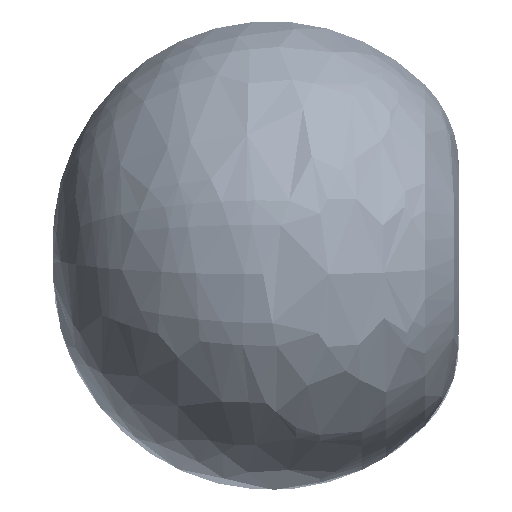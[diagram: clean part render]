
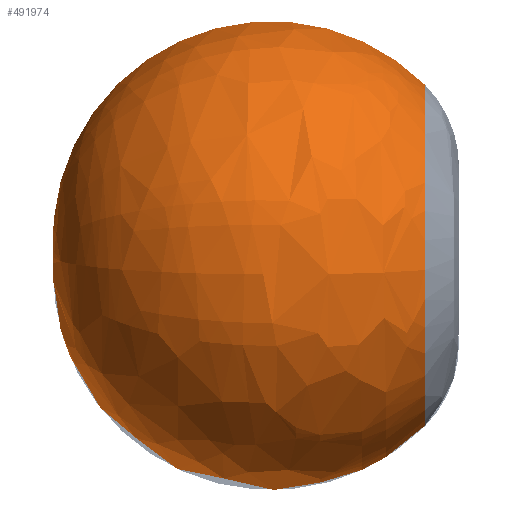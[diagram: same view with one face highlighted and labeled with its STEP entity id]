
A CAD part, left-side view. The second image highlights one B-rep face of the part: STEP entity #491974.
In plain terms, the highlighted free-form (B-spline) face has degree [3, 3] with [7, 4] control points.
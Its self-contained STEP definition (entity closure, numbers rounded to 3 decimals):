
#491824=CARTESIAN_POINT('',(-12.638,589.,144.448));
#491825=DIRECTION('',(-0.996,0.,-0.087));
#491826=DIRECTION('',(-0.062,-0.706,0.705));
#491827=AXIS2_PLACEMENT_3D('',#491824,#491825,#491826);
#491853=CARTESIAN_POINT('',(0.,-729.514,0.));
#491854=DIRECTION('',(0.,-1.,0.));
#491855=DIRECTION('',(-0.087,0.,0.996));
#491856=AXIS2_PLACEMENT_3D('',#491853,#491854,#491855);
#491873=CARTESIAN_POINT('',(12.638,589.,144.448));
#491874=DIRECTION('',(-0.996,0.,0.087));
#491875=DIRECTION('',(0.062,-0.706,0.705));
#491876=AXIS2_PLACEMENT_3D('',#491873,#491874,#491875);
#491898=CARTESIAN_POINT('',(-127.886,-729.514,
1461.744));
#491899=CARTESIAN_POINT('',(0.,2450.721,0.));
#491900=VERTEX_POINT('',#491898);
#491901=VERTEX_POINT('',#491899);
#491910=CARTESIAN_POINT('',(127.886,-729.514,
1461.744));
#491911=VERTEX_POINT('',#491910);
#491938=CARTESIAN_POINT('',(0.,2450.721,0.));
#491939=CARTESIAN_POINT('',(-5.982,2617.13,
2136.599));
#491940=CARTESIAN_POINT('',(-8.363,649.931,
2986.837));
#491941=CARTESIAN_POINT('',(-3.925,-792.259,
1401.638));
#491942=CARTESIAN_POINT('',(0.,2450.721,
0.));
#491943=CARTESIAN_POINT('',(-4267.245,2617.13,
2124.668));
#491944=CARTESIAN_POINT('',(-5965.351,649.931,
2970.157));
#491945=CARTESIAN_POINT('',(-2799.371,-792.259,
1393.811));
#491946=CARTESIAN_POINT('',(0.,2450.721,
0.));
#491947=CARTESIAN_POINT('',(-4261.28,2617.13,
-2136.608));
#491948=CARTESIAN_POINT('',(-5957.011,649.931,
-2986.848));
#491949=CARTESIAN_POINT('',(-2795.457,-792.259,
-1401.644));
#491950=CARTESIAN_POINT('',(0.,2450.721,0.));
#491951=CARTESIAN_POINT('',(0.,2617.13,
-2136.608));
#491952=CARTESIAN_POINT('',(0.,649.931,
-2986.848));
#491953=CARTESIAN_POINT('',(0.,-792.259,
-1401.644));
#491954=CARTESIAN_POINT('',(0.,2450.721,
0.));
#491955=CARTESIAN_POINT('',(4261.28,2617.13,
-2136.608));
#491956=CARTESIAN_POINT('',(5957.011,649.931,
-2986.848));
#491957=CARTESIAN_POINT('',(2795.457,-792.259,
-1401.644));
#491958=CARTESIAN_POINT('',(0.,2450.721,
0.));
#491959=CARTESIAN_POINT('',(4267.245,2617.13,
2124.668));
#491960=CARTESIAN_POINT('',(5965.351,649.931,
2970.157));
#491961=CARTESIAN_POINT('',(2799.371,-792.259,
1393.811));
#491962=CARTESIAN_POINT('',(0.,2450.721,0.));
#491963=CARTESIAN_POINT('',(5.982,2617.13,
2136.599));
#491964=CARTESIAN_POINT('',(8.363,649.931,
2986.837));
#491965=CARTESIAN_POINT('',(3.925,-792.259,
1401.638));
#491966=(BOUNDED_SURFACE()B_SPLINE_SURFACE(3,3,((#491938,#491939,#491940,
#491941),(#491942,#491943,#491944,#491945),(#491946,#491947,#491948,#491949),(
#491950,#491951,#491952,#491953),(#491954,#491955,#491956,#491957),(#491958,
#491959,#491960,#491961),(#491962,#491963,#491964,#491965)),.UNSPECIFIED.,.F.,
.F.,.F.)B_SPLINE_SURFACE_WITH_KNOTS((4,3,4),(4,4),(0.,1.,2.),(0.,1.),
.UNSPECIFIED.)GEOMETRIC_REPRESENTATION_ITEM()RATIONAL_B_SPLINE_SURFACE(((
3.016,1.657,1.657,3.016),(
1.008,0.554,0.554,1.008),(
1.008,0.554,0.554,1.008),(
3.016,1.657,1.657,3.016),(
1.008,0.554,0.554,1.008),(
1.008,0.554,0.554,1.008),(
3.016,1.657,1.657,3.016)))REPRESENTATION_ITEM('')SURFACE());
#491967=ORIENTED_EDGE('',*,*,#491923,.F.);
#491969=ORIENTED_EDGE('',*,*,#491968,.T.);
#491971=ORIENTED_EDGE('',*,*,#491970,.T.);
#491972=EDGE_LOOP('',(#491967,#491969,#491971));
#491973=FACE_OUTER_BOUND('',#491972,.F.);
#491974=ADVANCED_FACE('',(#491973),#491966,.T.);
#491828=CIRCLE('',#491827,1867.359);
#491857=CIRCLE('',#491856,1467.328);
#491877=CIRCLE('',#491876,1867.359);
#491923=EDGE_CURVE('',#491900,#491901,#491828,.T.);
#491968=EDGE_CURVE('',#491900,#491911,#491857,.T.);
#491970=EDGE_CURVE('',#491911,#491901,#491877,.T.);
